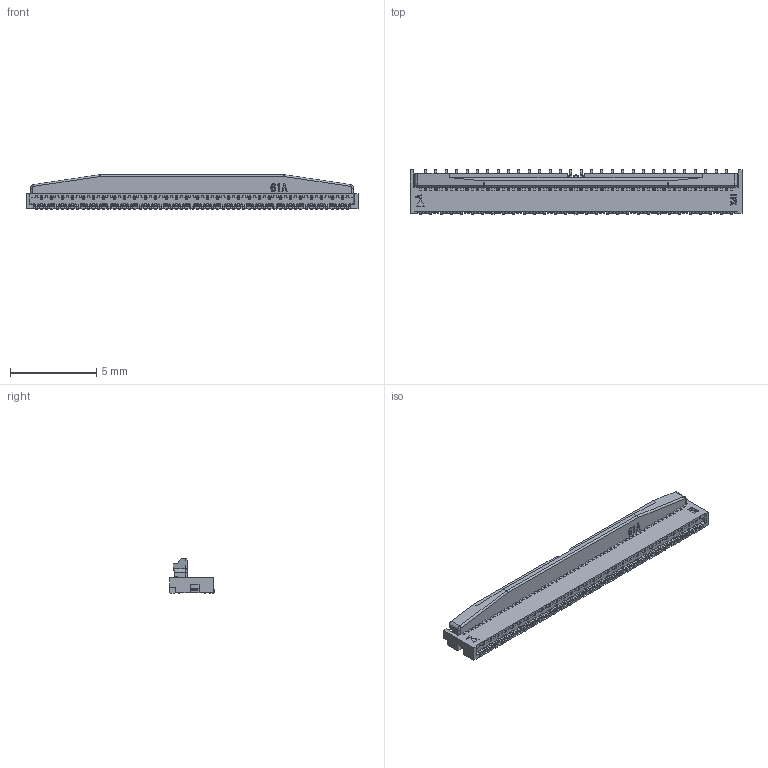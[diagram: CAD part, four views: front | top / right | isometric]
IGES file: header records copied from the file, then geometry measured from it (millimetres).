
Start section: SolidWorks IGES file using analytic representation for surfaces
Global section: file name: Q:\個人専用\SHIMADA\MFX3-BFN\3D-DATA\61p\iges\20538-061ExxxC ACT OPE IGES R0 ALL.IGS; native system: SolidWorks 2011; preprocessor: SolidWorks 2011; author: kaihatsu-3dcad-12; date: 120619.174954; units: millimetre
Bounding box: 19.2 x 2.55 x 2 mm (x, y, z)
Surface area: 280.2 mm2 (no closed solid volume)
Topology: 0 solids, 0 shells, 5624 faces, 35961 edges, 35959 vertices
Faces by surface type: bspline 4639, revolution 985
